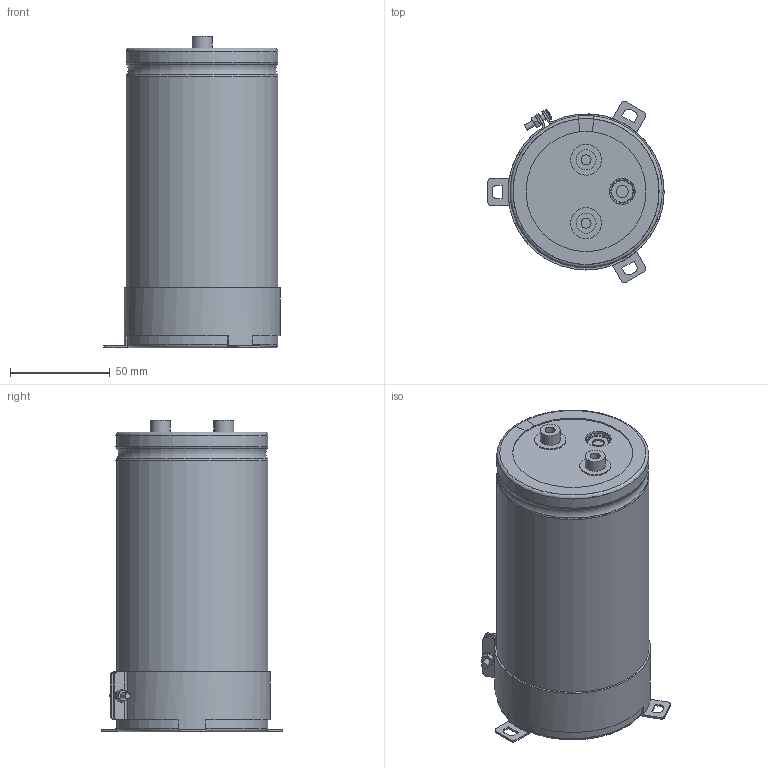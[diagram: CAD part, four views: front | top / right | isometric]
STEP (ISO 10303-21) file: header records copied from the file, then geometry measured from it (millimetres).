
FILE_DESCRIPTION(/* description */ (''),/* implementation_level */ '2;1');
FILE_NAME(/* name */ '76.2x150_Screw.stp',/* time_stamp */ '2017-09-17T13:33:45+09:00',/* author */ (''),/* organization */ (''),/* preprocessor_version */ 'ST-DEVELOPER v16',/* originating_system */ 'SIEMENS PLM Software NX 11.0',/* authorisation */ '');
FILE_SCHEMA (('AUTOMOTIVE_DESIGN { 1 0 10303 214 3 1 1 1 }'));
Length unit declared in the file: millimetre
Products named in the file (1): 76.2x150_Screw
Bounding box: 88.3 x 90.75 x 156 mm (x, y, z)
Volume: 686441.7 mm3; surface area: 137654.5 mm2
Topology: 9 solids, 9 shells, 259 faces, 642 edges, 413 vertices
Faces by surface type: plane 112, cylinder 66, torus 49, cone 31, sphere 1
Full cylindrical faces by diameter (mm): 3 x5, 5 x2, 5.5 x2, 6 x4, 8 x1, 10 x2, 13 x2, 15.5 x2, 75 x2
Entity records: 8534 total; most frequent: CARTESIAN_POINT 2182, DIRECTION 1296, ORIENTED_EDGE 1214, EDGE_CURVE 607, AXIS2_PLACEMENT_3D 541, VERTEX_POINT 408, EDGE_LOOP 317, CIRCLE 281
